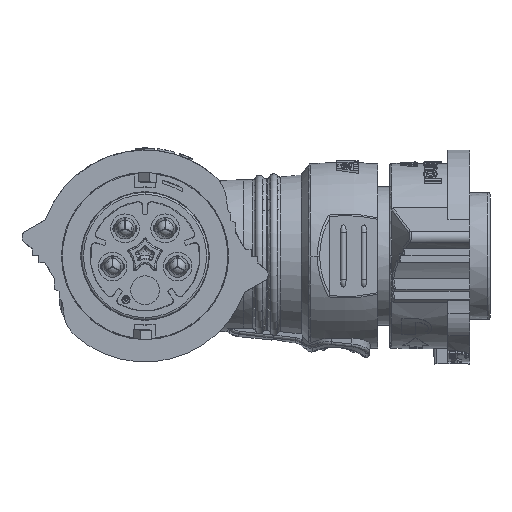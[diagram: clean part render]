
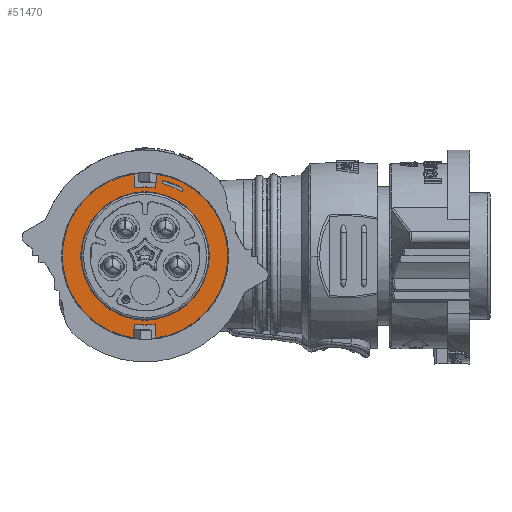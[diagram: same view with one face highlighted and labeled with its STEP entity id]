
A CAD part, left-side view. The second image highlights one B-rep face of the part: STEP entity #51470.
In plain terms, the highlighted planar face has unit normal (-1, 0, 0).
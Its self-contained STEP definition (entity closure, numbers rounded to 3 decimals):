
#42=DIRECTION('',(0.,0.,-1.));
#43=VECTOR('',#42,2.019);
#44=CARTESIAN_POINT('',(8.25,1.5,12.007));
#45=LINE('',#44,#43);
#46=CARTESIAN_POINT('',(8.25,0.,0.));
#47=DIRECTION('',(1.,0.,0.));
#48=DIRECTION('',(0.,0.149,0.989));
#49=AXIS2_PLACEMENT_3D('',#46,#47,#48);
#51=DIRECTION('',(0.,0.,-1.));
#52=VECTOR('',#51,2.019);
#53=CARTESIAN_POINT('',(8.25,-1.5,12.007));
#54=LINE('',#53,#52);
#55=DIRECTION('',(0.,0.,1.));
#56=VECTOR('',#55,2.019);
#57=CARTESIAN_POINT('',(8.25,-1.5,-12.007));
#58=LINE('',#57,#56);
#59=CARTESIAN_POINT('',(8.25,0.,0.));
#60=DIRECTION('',(1.,0.,0.));
#61=DIRECTION('',(0.,-0.149,-0.989));
#62=AXIS2_PLACEMENT_3D('',#59,#60,#61);
#64=DIRECTION('',(0.,0.,1.));
#65=VECTOR('',#64,2.019);
#66=CARTESIAN_POINT('',(8.25,1.5,-12.007));
#67=LINE('',#66,#65);
#68=DIRECTION('',(0.,0.,1.));
#69=VECTOR('',#68,0.547);
#70=CARTESIAN_POINT('',(8.25,-5.5,9.382));
#71=LINE('',#70,#69);
#72=CARTESIAN_POINT('',(8.25,0.,0.));
#73=DIRECTION('',(-1.,0.,0.));
#74=DIRECTION('',(0.,-0.485,0.875));
#75=AXIS2_PLACEMENT_3D('',#72,#73,#74);
#77=DIRECTION('',(0.,0.,-1.));
#78=VECTOR('',#77,0.488);
#79=CARTESIAN_POINT('',(8.25,-2.5,11.071));
#80=LINE('',#79,#78);
#81=CARTESIAN_POINT('',(8.25,0.,0.));
#82=DIRECTION('',(-1.,0.,0.));
#83=DIRECTION('',(0.,-0.506,0.863));
#84=AXIS2_PLACEMENT_3D('',#81,#82,#83);
#86=CARTESIAN_POINT('',(8.25,0.,0.));
#87=DIRECTION('',(-1.,0.,0.));
#88=DIRECTION('',(0.,0.999,0.053));
#89=AXIS2_PLACEMENT_3D('',#86,#87,#88);
#91=DIRECTION('',(0.,-1.,0.));
#92=VECTOR('',#91,0.075);
#93=CARTESIAN_POINT('',(8.25,9.437,-0.5));
#94=LINE('',#93,#92);
#95=DIRECTION('',(0.,0.,-1.));
#96=VECTOR('',#95,0.075);
#97=CARTESIAN_POINT('',(8.25,0.5,-9.362));
#98=LINE('',#97,#96);
#99=CARTESIAN_POINT('',(8.25,0.,0.));
#100=DIRECTION('',(-1.,0.,0.));
#101=DIRECTION('',(0.,0.053,-0.999));
#102=AXIS2_PLACEMENT_3D('',#99,#100,#101);
#104=DIRECTION('',(0.,0.,1.));
#105=VECTOR('',#104,0.075);
#106=CARTESIAN_POINT('',(8.25,-0.5,-9.437));
#107=LINE('',#106,#105);
#108=DIRECTION('',(0.,-1.,0.));
#109=VECTOR('',#108,0.075);
#110=CARTESIAN_POINT('',(8.25,-9.362,-0.5));
#111=LINE('',#110,#109);
#112=CARTESIAN_POINT('',(8.25,0.,0.));
#113=DIRECTION('',(-1.,0.,0.));
#114=DIRECTION('',(0.,-0.999,-0.053));
#115=AXIS2_PLACEMENT_3D('',#112,#113,#114);
#117=DIRECTION('',(0.,1.,0.));
#118=VECTOR('',#117,0.075);
#119=CARTESIAN_POINT('',(8.25,-9.437,0.5));
#120=LINE('',#119,#118);
#121=DIRECTION('',(0.,0.,1.));
#122=VECTOR('',#121,0.075);
#123=CARTESIAN_POINT('',(8.25,-0.5,9.362));
#124=LINE('',#123,#122);
#125=CARTESIAN_POINT('',(8.25,0.,0.));
#126=DIRECTION('',(-1.,0.,0.));
#127=DIRECTION('',(0.,-0.053,0.999));
#128=AXIS2_PLACEMENT_3D('',#125,#126,#127);
#130=DIRECTION('',(0.,0.,-1.));
#131=VECTOR('',#130,0.075);
#132=CARTESIAN_POINT('',(8.25,0.5,9.437));
#133=LINE('',#132,#131);
#134=DIRECTION('',(0.,1.,0.));
#135=VECTOR('',#134,0.075);
#136=CARTESIAN_POINT('',(8.25,9.362,0.5));
#137=LINE('',#136,#135);
#138=CARTESIAN_POINT('',(8.25,0.,0.));
#139=DIRECTION('',(-1.,0.,0.));
#140=DIRECTION('',(0.,0.124,0.992));
#141=AXIS2_PLACEMENT_3D('',#138,#139,#140);
#333=CARTESIAN_POINT('',(8.25,0.,0.));
#334=DIRECTION('',(1.,0.,0.));
#335=DIRECTION('',(0.,-0.124,0.992));
#336=AXIS2_PLACEMENT_3D('',#333,#334,#335);
#39951=CARTESIAN_POINT('',(8.25,0.,0.));
#39952=DIRECTION('',(1.,0.,0.));
#39953=DIRECTION('',(0.,0.999,0.053));
#39954=AXIS2_PLACEMENT_3D('',#39951,#39952,#39953);
#40021=CARTESIAN_POINT('',(8.25,0.,0.));
#40022=DIRECTION('',(1.,0.,0.));
#40023=DIRECTION('',(0.,0.053,-0.999));
#40024=AXIS2_PLACEMENT_3D('',#40021,#40022,#40023);
#40053=CARTESIAN_POINT('',(8.25,0.,0.));
#40054=DIRECTION('',(1.,0.,0.));
#40055=DIRECTION('',(0.,-0.999,-0.053));
#40056=AXIS2_PLACEMENT_3D('',#40053,#40054,#40055);
#40085=CARTESIAN_POINT('',(8.25,0.,0.));
#40086=DIRECTION('',(1.,0.,0.));
#40087=DIRECTION('',(0.,-0.053,0.999));
#40088=AXIS2_PLACEMENT_3D('',#40085,#40086,#40087);
#45698=CARTESIAN_POINT('',(8.25,1.5,12.007));
#45699=CARTESIAN_POINT('',(8.25,1.5,-12.007));
#45700=VERTEX_POINT('',#45698);
#45701=VERTEX_POINT('',#45699);
#45710=CARTESIAN_POINT('',(8.25,-1.5,12.007));
#45711=CARTESIAN_POINT('',(8.25,-1.5,-12.007));
#45712=VERTEX_POINT('',#45710);
#45713=VERTEX_POINT('',#45711);
#45762=CARTESIAN_POINT('',(8.25,-5.5,9.382));
#45763=CARTESIAN_POINT('',(8.25,-5.5,9.928));
#45764=VERTEX_POINT('',#45762);
#45765=VERTEX_POINT('',#45763);
#45766=CARTESIAN_POINT('',(8.25,-2.5,11.071));
#45767=VERTEX_POINT('',#45766);
#45768=CARTESIAN_POINT('',(8.25,-2.5,10.584));
#45769=VERTEX_POINT('',#45768);
#45784=CARTESIAN_POINT('',(8.25,-1.5,-9.988));
#45785=CARTESIAN_POINT('',(8.25,1.5,-9.988));
#45786=VERTEX_POINT('',#45784);
#45787=VERTEX_POINT('',#45785);
#45788=CARTESIAN_POINT('',(8.25,1.5,9.988));
#45789=VERTEX_POINT('',#45788);
#45790=CARTESIAN_POINT('',(8.25,-1.5,9.988));
#45791=VERTEX_POINT('',#45790);
#45842=CARTESIAN_POINT('',(8.25,-0.5,9.437));
#45843=CARTESIAN_POINT('',(8.25,0.5,9.437));
#45844=VERTEX_POINT('',#45842);
#45845=VERTEX_POINT('',#45843);
#45850=CARTESIAN_POINT('',(8.25,-0.5,9.362));
#45851=CARTESIAN_POINT('',(8.25,-9.362,0.5));
#45852=VERTEX_POINT('',#45850);
#45853=VERTEX_POINT('',#45851);
#45858=CARTESIAN_POINT('',(8.25,-9.437,-0.5));
#45859=CARTESIAN_POINT('',(8.25,-9.437,0.5));
#45860=VERTEX_POINT('',#45858);
#45861=VERTEX_POINT('',#45859);
#45866=CARTESIAN_POINT('',(8.25,-9.362,-0.5));
#45867=CARTESIAN_POINT('',(8.25,-0.5,-9.362));
#45868=VERTEX_POINT('',#45866);
#45869=VERTEX_POINT('',#45867);
#45874=CARTESIAN_POINT('',(8.25,0.5,-9.437));
#45875=CARTESIAN_POINT('',(8.25,-0.5,-9.437));
#45876=VERTEX_POINT('',#45874);
#45877=VERTEX_POINT('',#45875);
#45886=CARTESIAN_POINT('',(8.25,0.5,-9.362));
#45887=CARTESIAN_POINT('',(8.25,9.362,-0.5));
#45888=VERTEX_POINT('',#45886);
#45889=VERTEX_POINT('',#45887);
#45890=CARTESIAN_POINT('',(8.25,9.362,0.5));
#45891=CARTESIAN_POINT('',(8.25,0.5,9.362));
#45892=VERTEX_POINT('',#45890);
#45893=VERTEX_POINT('',#45891);
#45898=CARTESIAN_POINT('',(8.25,9.437,0.5));
#45899=CARTESIAN_POINT('',(8.25,9.437,-0.5));
#45900=VERTEX_POINT('',#45898);
#45901=VERTEX_POINT('',#45899);
#51403=CARTESIAN_POINT('',(8.25,0.,0.));
#51404=DIRECTION('',(-1.,0.,0.));
#51405=DIRECTION('',(0.,0.,-1.));
#51406=AXIS2_PLACEMENT_3D('',#51403,#51404,#51405);
#51407=PLANE('',#51406);
#51409=ORIENTED_EDGE('',*,*,#51408,.F.);
#51411=ORIENTED_EDGE('',*,*,#51410,.T.);
#51413=ORIENTED_EDGE('',*,*,#51412,.T.);
#51415=ORIENTED_EDGE('',*,*,#51414,.F.);
#51417=ORIENTED_EDGE('',*,*,#51416,.T.);
#51419=ORIENTED_EDGE('',*,*,#51418,.T.);
#51421=ORIENTED_EDGE('',*,*,#51420,.T.);
#51423=ORIENTED_EDGE('',*,*,#51422,.F.);
#51424=EDGE_LOOP('',(#51409,#51411,#51413,#51415,#51417,#51419,#51421,#51423));
#51425=FACE_OUTER_BOUND('',#51424,.F.);
#51427=ORIENTED_EDGE('',*,*,#51426,.T.);
#51429=ORIENTED_EDGE('',*,*,#51428,.T.);
#51431=ORIENTED_EDGE('',*,*,#51430,.T.);
#51433=ORIENTED_EDGE('',*,*,#51432,.F.);
#51434=EDGE_LOOP('',(#51427,#51429,#51431,#51433));
#51435=FACE_BOUND('',#51434,.F.);
#51437=ORIENTED_EDGE('',*,*,#51436,.T.);
#51439=ORIENTED_EDGE('',*,*,#51438,.T.);
#51441=ORIENTED_EDGE('',*,*,#51440,.F.);
#51443=ORIENTED_EDGE('',*,*,#51442,.T.);
#51445=ORIENTED_EDGE('',*,*,#51444,.T.);
#51447=ORIENTED_EDGE('',*,*,#51446,.T.);
#51449=ORIENTED_EDGE('',*,*,#51448,.F.);
#51451=ORIENTED_EDGE('',*,*,#51450,.T.);
#51453=ORIENTED_EDGE('',*,*,#51452,.T.);
#51455=ORIENTED_EDGE('',*,*,#51454,.T.);
#51457=ORIENTED_EDGE('',*,*,#51456,.F.);
#51459=ORIENTED_EDGE('',*,*,#51458,.T.);
#51461=ORIENTED_EDGE('',*,*,#51460,.T.);
#51463=ORIENTED_EDGE('',*,*,#51462,.T.);
#51465=ORIENTED_EDGE('',*,*,#51464,.F.);
#51467=ORIENTED_EDGE('',*,*,#51466,.T.);
#51468=EDGE_LOOP('',(#51437,#51439,#51441,#51443,#51445,#51447,#51449,#51451,
#51453,#51455,#51457,#51459,#51461,#51463,#51465,#51467));
#51469=FACE_BOUND('',#51468,.F.);
#51470=ADVANCED_FACE('',(#51425,#51435,#51469),#51407,.T.);
#50=CIRCLE('',#49,10.1);
#63=CIRCLE('',#62,10.1);
#76=CIRCLE('',#75,11.35);
#85=CIRCLE('',#84,10.875);
#90=CIRCLE('',#89,9.45);
#103=CIRCLE('',#102,9.45);
#116=CIRCLE('',#115,9.45);
#129=CIRCLE('',#128,9.45);
#142=CIRCLE('',#141,12.1);
#337=CIRCLE('',#336,12.1);
#39955=CIRCLE('',#39954,9.375);
#40025=CIRCLE('',#40024,9.375);
#40057=CIRCLE('',#40056,9.375);
#40089=CIRCLE('',#40088,9.375);
#51408=EDGE_CURVE('',#45700,#45701,#142,.T.);
#51410=EDGE_CURVE('',#45700,#45789,#45,.T.);
#51412=EDGE_CURVE('',#45789,#45791,#50,.T.);
#51414=EDGE_CURVE('',#45712,#45791,#54,.T.);
#51416=EDGE_CURVE('',#45712,#45713,#337,.T.);
#51418=EDGE_CURVE('',#45713,#45786,#58,.T.);
#51420=EDGE_CURVE('',#45786,#45787,#63,.T.);
#51422=EDGE_CURVE('',#45701,#45787,#67,.T.);
#51426=EDGE_CURVE('',#45764,#45765,#71,.T.);
#51428=EDGE_CURVE('',#45765,#45767,#76,.T.);
#51430=EDGE_CURVE('',#45767,#45769,#80,.T.);
#51432=EDGE_CURVE('',#45764,#45769,#85,.T.);
#51436=EDGE_CURVE('',#45900,#45901,#90,.T.);
#51438=EDGE_CURVE('',#45901,#45889,#94,.T.);
#51440=EDGE_CURVE('',#45888,#45889,#40025,.T.);
#51442=EDGE_CURVE('',#45888,#45876,#98,.T.);
#51444=EDGE_CURVE('',#45876,#45877,#103,.T.);
#51446=EDGE_CURVE('',#45877,#45869,#107,.T.);
#51448=EDGE_CURVE('',#45868,#45869,#40057,.T.);
#51450=EDGE_CURVE('',#45868,#45860,#111,.T.);
#51452=EDGE_CURVE('',#45860,#45861,#116,.T.);
#51454=EDGE_CURVE('',#45861,#45853,#120,.T.);
#51456=EDGE_CURVE('',#45852,#45853,#40089,.T.);
#51458=EDGE_CURVE('',#45852,#45844,#124,.T.);
#51460=EDGE_CURVE('',#45844,#45845,#129,.T.);
#51462=EDGE_CURVE('',#45845,#45893,#133,.T.);
#51464=EDGE_CURVE('',#45892,#45893,#39955,.T.);
#51466=EDGE_CURVE('',#45892,#45900,#137,.T.);
